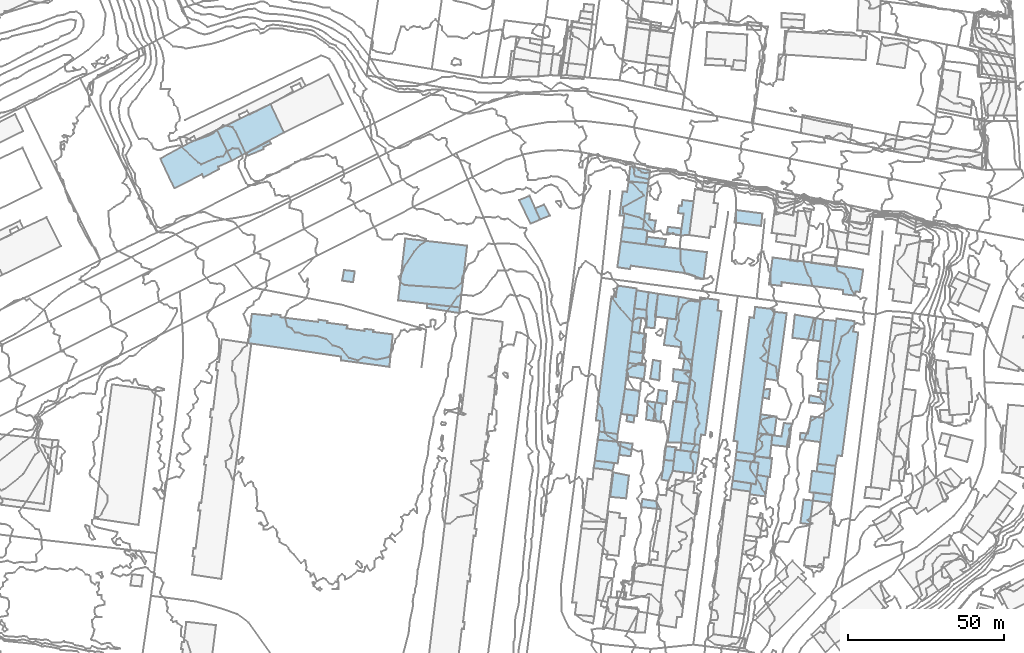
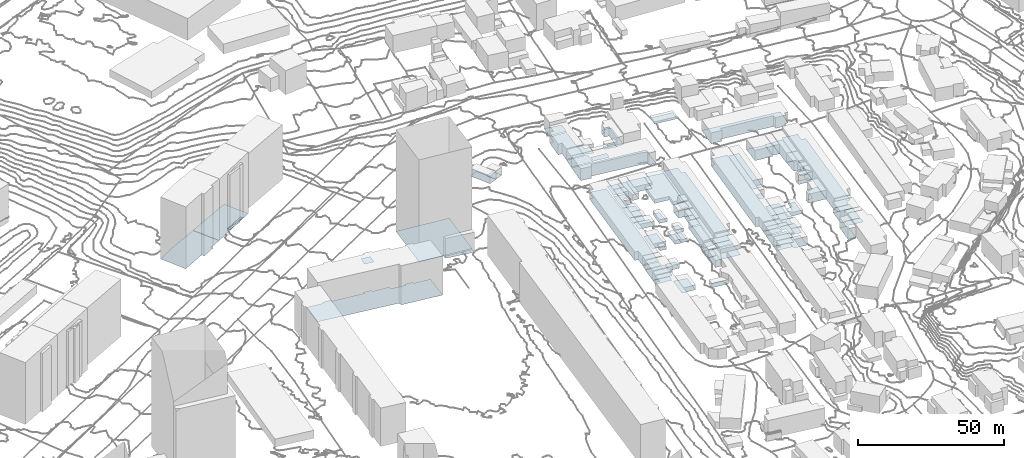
# Not in any storey, part 19 of 419: 73 footings.
"""IFC2X3 model written with IfcOpenShell, lengths in metres."""

from ifc_helpers import new_model, si_unit, frame, origin_with_axes, place, context, subcontext, project, faceted_brep, element, save


model = new_model("IFC2X3")

# Units and contexts
model_context = context("Model", 3, precision=1e-05, world=origin_with_axes())
body_context = subcontext(model_context, "Body", "Model", "MODEL_VIEW")
ifc_project = project(units=[si_unit("AREAUNIT", "SQUARE_METRE"), si_unit("LENGTHUNIT", "METRE")], contexts=[model_context])

# Footings
footing_1_placement = place(None, frame((536.0920204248, 752.4976909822, 39.0440010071), z_axis=(0.0, 0.0, 1.0), x_axis=(1.0, 0.0, 0.0)))
element("IfcFooting", 1, at=footing_1_placement, Name="Sol 0", PredefinedType="STRIP_FOOTING", context=body_context, shape_type="Brep", body=[
    faceted_brep([(5.0, -4.6999999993, 0.0), (4.4, -4.6999999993, 0.0), (0.9, -4.0999999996, 0.0), (0.2, 1.9000000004, 0.0), (5.7, 1.3000000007, 0.0), (1.4, -0.1999999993, 0.0), (0.0, 0.0, 0.0)], [[[0, 1, 2]], [[3, 4, 0]], [[5, 6, 3]], [[0, 2, 5]], [[5, 3, 0]]]),
])
footing_2_placement = place(None, frame((536.2920204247, 754.3976909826, 38.9300006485), z_axis=(0.0, 0.0, 1.0), x_axis=(1.0, 0.0, 0.0)))
element("IfcFooting", 2, at=footing_2_placement, Name="Sol 0", PredefinedType="STRIP_FOOTING", context=body_context, shape_type="Brep", body=[
    faceted_brep([(5.6000000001, 6.7000000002, 0.0), (4.8, -0.7000000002, 0.0), (0.0, 0.0, 0.0), (1.0, 7.2999999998, 0.0)], [[[0, 1, 2]], [[2, 3, 0]]]),
])
footing_3_placement = place(None, frame((537.2920204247, 761.6976909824, 38.8383990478), z_axis=(0.0, 0.0, 1.0), x_axis=(1.0, 0.0, 0.0)))
element("IfcFooting", 3, at=footing_3_placement, Name="Sol 0", PredefinedType="STRIP_FOOTING", context=body_context, shape_type="Brep", body=[
    faceted_brep([(5.2000000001, -0.5, 0.0), (0.0, 0.0, 0.0), (0.9, 6.1000000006, 0.0), (6.0, 5.4000000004, 0.0)], [[[0, 1, 2]], [[2, 3, 0]]]),
])
footing_4_placement = place(None, frame((500.4920204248, 826.9976909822, 37.8899995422), z_axis=(0.0, 0.0, 1.0), x_axis=(1.0, 0.0, 0.0)))
element("IfcFooting", 4, at=footing_4_placement, Name="Sol 0", PredefinedType="STRIP_FOOTING", context=body_context, shape_type="Brep", body=[
    faceted_brep([(3.5, -1.0, 0.0), (0.0, 0.0, 0.0), (0.6, 5.2000000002, 0.0), (2.0, 3.1000000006, 0.0), (4.1, 2.8000000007, 0.0), (2.2, 5.0, 0.0)], [[[0, 1, 2]], [[3, 4, 0]], [[2, 5, 3]], [[3, 0, 2]]]),
])
footing_5_placement = place(None, frame((496.0920204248, 787.9976909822, 36.4690006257), z_axis=(0.0, 0.0, 1.0), x_axis=(1.0, 0.0, 0.0)))
element("IfcFooting", 5, at=footing_5_placement, Name="Sol 0", PredefinedType="STRIP_FOOTING", context=body_context, shape_type="Brep", body=[
    faceted_brep([(0.0, 0.0, 0.0), (0.8, 6.3000000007, 0.0), (5.4, 5.5, 0.0), (4.8, -0.6999999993, 0.0)], [[[0, 1, 2]], [[2, 3, 0]]]),
])
footing_6_placement = place(None, frame((511.6920204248, 832.1976909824, 38.0406999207), z_axis=(0.0, 0.0, 1.0), x_axis=(1.0, 0.0, 0.0)))
element("IfcFooting", 6, at=footing_6_placement, Name="Sol 0", PredefinedType="STRIP_FOOTING", context=body_context, shape_type="Brep", body=[
    faceted_brep([(1.4, 4.2000000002, 0.0), (5.0, 3.7999999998, 0.0), (3.6, -7.0, 0.0), (0.0, 0.0, 0.0), (0.3, 2.5, 0.0), (1.2000000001, 2.2999999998, 0.0), (0.8, -7.0999999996, 0.0), (1.8, -0.0999999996, 0.0)], [[[0, 1, 2]], [[3, 4, 5]], [[2, 6, 7]], [[5, 0, 2]], [[7, 3, 5]], [[5, 2, 7]]]),
])
footing_7_placement = place(None, frame((492.9920204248, 831.4976909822, 37.6191995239), z_axis=(0.0, 0.0, 1.0), x_axis=(1.0, 0.0, 0.0)))
element("IfcFooting", 7, at=footing_7_placement, Name="Sol 0", PredefinedType="STRIP_FOOTING", context=body_context, shape_type="Brep", body=[
    faceted_brep([(9.2, 10.3000000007, 0.0), (7.5, -4.5, 0.0), (1.0, -3.7999999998, 0.0), (2.4, 7.5, 0.0), (2.9, 10.9000000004, 0.0), (0.0, 0.0, 0.0), (1.0, 7.7000000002, 0.0), (1.5, -0.0999999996, 0.0)], [[[0, 1, 2]], [[3, 4, 0]], [[5, 6, 3]], [[0, 2, 7]], [[5, 3, 0]], [[0, 7, 5]]]),
])
footing_8_placement = place(None, frame((534.6920204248, 742.1976909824, 38.0832015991), z_axis=(0.0, 0.0, 1.0), x_axis=(1.0, 0.0, 0.0)))
element("IfcFooting", 8, at=footing_8_placement, Name="Sol 0", PredefinedType="STRIP_FOOTING", context=body_context, shape_type="Brep", body=[
    faceted_brep([(0.0, 0.0, 0.0), (0.1, 0.9000000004, 0.0), (0.5, 3.5, 0.0), (5.8, 5.6000000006, 0.0), (5.0, -0.7000000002, 0.0), (1.9, 3.2000000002, 0.0), (2.3, 6.2000000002, 0.0)], [[[0, 1, 2]], [[3, 4, 0]], [[5, 6, 3]], [[0, 2, 5]], [[5, 3, 0]]]),
])
footing_9_placement = place(None, frame((553.7920204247, 742.8976909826, 41.4479988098), z_axis=(0.0, 0.0, 1.0), x_axis=(1.0, 0.0, 0.0)))
element("IfcFooting", 9, at=footing_9_placement, Name="Sol 0", PredefinedType="STRIP_FOOTING", context=body_context, shape_type="Brep", body=[
    faceted_brep([(0.8, 6.7999999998, 0.0), (8.1000000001, 5.7999999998, 0.0), (7.2000000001, -0.9000000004, 0.0), (0.0, 0.0, 0.0)], [[[0, 1, 2]], [[2, 3, 0]]]),
])
footing_10_placement = place(None, frame((373.5920204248, 851.4976909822, 36.4020008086), z_axis=(0.0, 0.0, 1.0), x_axis=(1.0, 0.0, 0.0)))
element("IfcFooting", 10, at=footing_10_placement, Name="Sol 0", PredefinedType="STRIP_FOOTING", context=body_context, shape_type="Brep", body=[
    faceted_brep([(0.0, 0.0, 0.0), (7.3, 3.9000000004, 0.0), (7.8, 3.0, 0.0), (5.5, 1.2000000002, 0.0), (0.4, -0.7999999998, 0.0), (5.4, 1.9000000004, 0.0)], [[[0, 1, 2]], [[3, 4, 0]], [[0, 2, 5]], [[5, 3, 0]]]),
])
footing_11_placement = place(None, frame((550.8920204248, 732.9976909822, 41.685300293), z_axis=(0.0, 0.0, 1.0), x_axis=(1.0, 0.0, 0.0)))
element("IfcFooting", 11, at=footing_11_placement, Name="Sol 0", PredefinedType="STRIP_FOOTING", context=body_context, shape_type="Brep", body=[
    faceted_brep([(1.0, 7.5, 0.0), (4.0, 7.2000000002, 0.0), (3.0, -0.3999999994, 0.0), (0.0, 0.0, 0.0)], [[[0, 1, 2]], [[2, 3, 0]]]),
])
footing_12_placement = place(None, frame((538.7920204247, 773.1976909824, 38.4532003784), z_axis=(0.0, 0.0, 1.0), x_axis=(1.0, 0.0, 0.0)))
element("IfcFooting", 12, at=footing_12_placement, Name="Sol 0", PredefinedType="STRIP_FOOTING", context=body_context, shape_type="Brep", body=[
    faceted_brep([(0.0, 0.0, 0.0), (0.4, 2.6000000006, 0.0), (2.4, 2.7000000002, 0.0), (2.0, -0.5, 0.0)], [[[0, 1, 2]], [[2, 3, 0]]]),
])
footing_13_placement = place(None, frame((556.0920204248, 749.4976909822, 41.3992001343), z_axis=(0.0, 0.0, 1.0), x_axis=(1.0, 0.0, 0.0)))
element("IfcFooting", 13, at=footing_13_placement, Name="Sol 0", PredefinedType="STRIP_FOOTING", context=body_context, shape_type="Brep", body=[
    faceted_brep([(0.3, 2.5, 0.0), (6.0, 1.8000000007, 0.0), (5.8, -0.7999999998, 0.0), (0.0, 0.0, 0.0)], [[[0, 1, 2]], [[2, 3, 0]]]),
])
footing_14_placement = place(None, frame((502.7920204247, 779.1976909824, 37.2367999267), z_axis=(0.0, 0.0, 1.0), x_axis=(1.0, 0.0, 0.0)))
element("IfcFooting", 14, at=footing_14_placement, Name="Sol 0", PredefinedType="STRIP_FOOTING", context=body_context, shape_type="Brep", body=[
    faceted_brep([(0.0, 0.0, 0.0), (0.9, 6.0, 0.0), (3.3, 5.6000000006, 0.0), (2.9, -0.5, 0.0)], [[[0, 1, 2]], [[2, 3, 0]]]),
])
footing_15_placement = place(None, frame((503.7920204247, 765.6976909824, 36.9349994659), z_axis=(0.0, 0.0, 1.0), x_axis=(1.0, 0.0, 0.0)))
element("IfcFooting", 15, at=footing_15_placement, Name="Sol 0", PredefinedType="STRIP_FOOTING", context=body_context, shape_type="Brep", body=[
    faceted_brep([(0.0, 0.0, 0.0), (0.7000000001, 5.9000000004, 0.0), (3.0, 5.5, 0.0), (2.3, -0.2999999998, 0.0)], [[[0, 1, 2]], [[2, 3, 0]]]),
])
footing_16_placement = place(None, frame((508.3920204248, 758.7976909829, 37.1160003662), z_axis=(0.0, 0.0, 1.0), x_axis=(1.0, 0.0, 0.0)))
element("IfcFooting", 16, at=footing_16_placement, Name="Sol 0", PredefinedType="STRIP_FOOTING", context=body_context, shape_type="Brep", body=[
    faceted_brep([(6.2, 12.6999999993, 0.0), (4.2999999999, 0.0, 0.0), (0.0, 0.0, 0.0), (1.7999999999, 13.2999999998, 0.0)], [[[0, 1, 2]], [[2, 3, 0]]]),
])
footing_17_placement = place(None, frame((512.4920204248, 756.2976909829, 37.5744013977), z_axis=(0.0, 0.0, 1.0), x_axis=(1.0, 0.0, 0.0)))
element("IfcFooting", 17, at=footing_17_placement, Name="Sol 0", PredefinedType="STRIP_FOOTING", context=body_context, shape_type="Brep", body=[
    faceted_brep([(0.0, 0.0, 0.0), (0.2, 2.5, 0.0), (6.1, 1.6999999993, 0.0), (5.9, -0.8000000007, 0.0)], [[[0, 1, 2]], [[2, 3, 0]]]),
])
footing_18_placement = place(None, frame((495.6920204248, 784.2976909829, 36.4690006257), z_axis=(0.0, 0.0, 1.0), x_axis=(1.0, 0.0, 0.0)))
element("IfcFooting", 18, at=footing_18_placement, Name="Sol 0", PredefinedType="STRIP_FOOTING", context=body_context, shape_type="Brep", body=[
    faceted_brep([(0.0, 0.0, 0.0), (0.4, 3.6999999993, 0.0), (4.8, 3.0, 0.0), (4.4, -0.7000000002, 0.0)], [[[0, 1, 2]], [[2, 3, 0]]]),
])
footing_19_placement = place(None, frame((507.2920204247, 753.1976909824, 37.0859994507), z_axis=(0.0, 0.0, 1.0), x_axis=(1.0, 0.0, 0.0)))
element("IfcFooting", 19, at=footing_19_placement, Name="Sol 0", PredefinedType="STRIP_FOOTING", context=body_context, shape_type="Brep", body=[
    faceted_brep([(0.6000000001, 4.4000000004, 0.0), (4.0, 4.0, 0.0), (3.5, 3.2999999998, 0.0), (3.1000000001, -0.2999999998, 0.0), (0.0, 0.0, 0.0)], [[[0, 1, 2]], [[3, 4, 0]], [[0, 2, 3]]]),
])
footing_20_placement = place(None, frame((492.8920204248, 754.7976909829, 35.7219993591), z_axis=(0.0, 0.0, 1.0), x_axis=(1.0, 0.0, 0.0)))
element("IfcFooting", 20, at=footing_20_placement, Name="Sol 0", PredefinedType="STRIP_FOOTING", context=body_context, shape_type="Brep", body=[
    faceted_brep([(3.6, -0.4000000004, 0.0), (0.0, 0.0, 0.0), (0.5, 4.0999999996, 0.0), (4.2999999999, 3.5999999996, 0.0)], [[[0, 1, 2]], [[2, 3, 0]]]),
])
footing_21_placement = place(None, frame((507.1920204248, 789.9976909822, 37.4983999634), z_axis=(0.0, 0.0, 1.0), x_axis=(1.0, 0.0, 0.0)))
element("IfcFooting", 21, at=footing_21_placement, Name="Sol 0", PredefinedType="STRIP_FOOTING", context=body_context, shape_type="Brep", body=[
    faceted_brep([(3.8, 8.2000000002, 0.0), (4.8, 15.4000000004, 0.0), (11.7000000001, 14.2000000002, 0.0), (0.0, 0.0, 0.0), (1.2000000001, 8.5, 0.0), (9.1, -4.6999999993, 0.0), (4.9, -4.1999999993, 0.0), (5.4, -0.6999999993, 0.0)], [[[0, 1, 2]], [[3, 4, 0]], [[5, 6, 7]], [[0, 2, 5]], [[7, 3, 0]], [[0, 5, 7]]]),
])
footing_22_placement = place(None, frame((513.0920204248, 781.8976909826, 37.9384004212), z_axis=(0.0, 0.0, 1.0), x_axis=(1.0, 0.0, 0.0)))
element("IfcFooting", 22, at=footing_22_placement, Name="Sol 0", PredefinedType="STRIP_FOOTING", context=body_context, shape_type="Brep", body=[
    faceted_brep([(0.0, 0.0, 0.0), (0.7, 3.7000000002, 0.0), (3.2, 3.4000000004, 0.0), (2.9, -0.2000000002, 0.0)], [[[0, 1, 2]], [[2, 3, 0]]]),
])
footing_23_placement = place(None, frame((495.1920204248, 779.9976909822, 36.8950008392), z_axis=(0.0, 0.0, 1.0), x_axis=(1.0, 0.0, 0.0)))
element("IfcFooting", 23, at=footing_23_placement, Name="Sol 0", PredefinedType="STRIP_FOOTING", context=body_context, shape_type="Brep", body=[
    faceted_brep([(0.0, 0.0, 0.0), (0.5, 4.3000000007, 0.0), (6.1, 3.4000000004, 0.0), (5.6, -0.8999999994, 0.0)], [[[0, 1, 2]], [[2, 3, 0]]]),
])
footing_24_placement = place(None, frame((495.1920204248, 765.5976909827, 36.6363998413), z_axis=(0.0, 0.0, 1.0), x_axis=(1.0, 0.0, 0.0)))
element("IfcFooting", 24, at=footing_24_placement, Name="Sol 0", PredefinedType="STRIP_FOOTING", context=body_context, shape_type="Brep", body=[
    faceted_brep([(0.0, 0.0, 0.0), (0.3, 2.0999999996, 0.0), (2.6, 1.7999999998, 0.0), (2.3, -0.4000000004, 0.0)], [[[0, 1, 2]], [[2, 3, 0]]]),
])
footing_25_placement = place(None, frame((556.4920204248, 775.2976909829, 40.5619991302), z_axis=(0.0, 0.0, 1.0), x_axis=(1.0, 0.0, 0.0)))
element("IfcFooting", 25, at=footing_25_placement, Name="Sol 0", PredefinedType="STRIP_FOOTING", context=body_context, shape_type="Brep", body=[
    faceted_brep([(0.2999999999, 2.5999999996, 0.0), (3.1, 2.1999999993, 0.0), (2.9, -0.3000000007, 0.0), (0.0, 0.0, 0.0)], [[[0, 1, 2]], [[2, 3, 0]]]),
])
footing_26_placement = place(None, frame((485.9920204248, 759.6976909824, 35.5533998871), z_axis=(0.0, 0.0, 1.0), x_axis=(1.0, 0.0, 0.0)))
element("IfcFooting", 26, at=footing_26_placement, Name="Sol 0", PredefinedType="STRIP_FOOTING", context=body_context, shape_type="Brep", body=[
    faceted_brep([(6.2, -0.7000000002, 0.0), (0.0, 0.0, 0.0), (0.4, 2.6000000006, 0.0), (6.4, 1.7999999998, 0.0)], [[[0, 1, 2]], [[2, 3, 0]]]),
])
footing_27_placement = place(None, frame((556.4920204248, 784.9976909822, 40.2458000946), z_axis=(0.0, 0.0, 1.0), x_axis=(1.0, 0.0, 0.0)))
element("IfcFooting", 27, at=footing_27_placement, Name="Sol 0", PredefinedType="STRIP_FOOTING", context=body_context, shape_type="Brep", body=[
    faceted_brep([(0.0, 0.0, 0.0), (1.7, 13.1000000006, 0.0), (5.7999999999, 12.7000000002, 0.0), (4.1, -0.5, 0.0)], [[[0, 1, 2]], [[2, 3, 0]]]),
])
footing_28_placement = place(None, frame((556.0920204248, 779.1976909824, 40.3780010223), z_axis=(0.0, 0.0, 1.0), x_axis=(1.0, 0.0, 0.0)))
element("IfcFooting", 28, at=footing_28_placement, Name="Sol 0", PredefinedType="STRIP_FOOTING", context=body_context, shape_type="Brep", body=[
    faceted_brep([(0.0, 0.0, 0.0), (0.4, 5.7999999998, 0.0), (4.5, 5.2999999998, 0.0), (3.8, -0.3999999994, 0.0)], [[[0, 1, 2]], [[2, 3, 0]]]),
])
footing_29_placement = place(None, frame((495.8920204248, 842.3976909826, 37.9790008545), z_axis=(0.0, 0.0, 1.0), x_axis=(1.0, 0.0, 0.0)))
element("IfcFooting", 29, at=footing_29_placement, Name="Sol 0", PredefinedType="STRIP_FOOTING", context=body_context, shape_type="Brep", body=[
    faceted_brep([(0.0, 0.0, 0.0), (0.5, 4.7999999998, 0.0), (6.8999999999, 3.5, 0.0), (6.2999999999, -0.5999999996, 0.0)], [[[0, 1, 2]], [[2, 3, 0]]]),
])
footing_30_placement = place(None, frame((404.1920204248, 810.5976909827, 35.6151997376), z_axis=(0.0, 0.0, 1.0), x_axis=(1.0, 0.0, 0.0)))
element("IfcFooting", 30, at=footing_30_placement, Name="Sol 0", PredefinedType="STRIP_FOOTING", context=body_context, shape_type="Brep", body=[
    faceted_brep([(3.5, -0.5, 0.0), (0.0, 0.0, 0.0), (0.6, 3.3999999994, 0.0), (4.0, 3.0, 0.0)], [[[0, 1, 2]], [[2, 3, 0]]]),
])
footing_31_placement = place(None, frame((496.8920204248, 794.2976909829, 36.5808003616), z_axis=(0.0, 0.0, 1.0), x_axis=(1.0, 0.0, 0.0)))
element("IfcFooting", 31, at=footing_31_placement, Name="Sol 0", PredefinedType="STRIP_FOOTING", context=body_context, shape_type="Brep", body=[
    faceted_brep([(0.0, 0.0, 0.0), (0.7999999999, 7.3999999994, 0.0), (4.7, 6.8999999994, 0.0), (3.1, 4.3999999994, 0.0), (2.3999999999, -0.6000000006, 0.0), (4.8999999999, 4.0999999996, 0.0)], [[[0, 1, 2]], [[3, 4, 0]], [[2, 5, 3]], [[3, 0, 2]]]),
])
footing_32_placement = place(None, frame((497.6920204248, 801.6976909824, 37.1106988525), z_axis=(0.0, 0.0, 1.0), x_axis=(1.0, 0.0, 0.0)))
element("IfcFooting", 32, at=footing_32_placement, Name="Sol 0", PredefinedType="STRIP_FOOTING", context=body_context, shape_type="Brep", body=[
    faceted_brep([(0.0, 0.0, 0.0), (0.7000000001, 5.7999999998, 0.0), (4.6, 5.2000000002, 0.0), (3.9, -0.5, 0.0)], [[[0, 1, 2]], [[2, 3, 0]]]),
])
footing_33_placement = place(None, frame((501.3920204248, 822.1976909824, 37.6935987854), z_axis=(0.0, 0.0, 1.0), x_axis=(1.0, 0.0, 0.0)))
element("IfcFooting", 33, at=footing_33_placement, Name="Sol 0", PredefinedType="STRIP_FOOTING", context=body_context, shape_type="Brep", body=[
    faceted_brep([(5.8999999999, -0.8999999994, 0.0), (0.0, 0.0, 0.0), (0.5, 2.4000000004, 0.0), (6.5, 1.7000000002, 0.0)], [[[0, 1, 2]], [[2, 3, 0]]]),
])
footing_34_placement = place(None, frame((501.5920204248, 801.1976909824, 37.1959991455), z_axis=(0.0, 0.0, 1.0), x_axis=(1.0, 0.0, 0.0)))
element("IfcFooting", 34, at=footing_34_placement, Name="Sol 0", PredefinedType="STRIP_FOOTING", context=body_context, shape_type="Brep", body=[
    faceted_brep([(0.0, 0.0, 0.0), (0.7, 5.7000000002, 0.0), (3.7, 5.2000000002, 0.0), (2.6, -5.7999999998, 0.0), (0.1, -5.5999999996, 0.0)], [[[0, 1, 2]], [[3, 4, 0]], [[0, 2, 3]]]),
])
footing_35_placement = place(None, frame((539.5920204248, 779.1976909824, 38.5800003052), z_axis=(0.0, 0.0, 1.0), x_axis=(1.0, 0.0, 0.0)))
element("IfcFooting", 35, at=footing_35_placement, Name="Sol 0", PredefinedType="STRIP_FOOTING", context=body_context, shape_type="Brep", body=[
    faceted_brep([(0.0, 0.0, 0.0), (2.9, 21.4000000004, 0.0), (6.9, 21.0, 0.0), (4.0, -0.5999999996, 0.0)], [[[0, 1, 2]], [[2, 3, 0]]]),
])
footing_36_placement = place(None, frame((554.8920204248, 740.1976909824, 41.7104003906), z_axis=(0.0, 0.0, 1.0), x_axis=(1.0, 0.0, 0.0)))
element("IfcFooting", 36, at=footing_36_placement, Name="Sol 0", PredefinedType="STRIP_FOOTING", context=body_context, shape_type="Brep", body=[
    faceted_brep([(0.2999999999, 2.6000000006, 0.0), (6.1, 1.7999999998, 0.0), (5.7999999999, -0.7999999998, 0.0), (0.0, 0.0, 0.0)], [[[0, 1, 2]], [[2, 3, 0]]]),
])
footing_37_placement = place(None, frame((512.6920204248, 758.7976909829, 37.5744013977), z_axis=(0.0, 0.0, 1.0), x_axis=(1.0, 0.0, 0.0)))
element("IfcFooting", 37, at=footing_37_placement, Name="Sol 0", PredefinedType="STRIP_FOOTING", context=body_context, shape_type="Brep", body=[
    faceted_brep([(0.0, 0.0, 0.0), (3.6, 26.5, 0.0), (6.2000000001, 45.3999999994, 0.0), (6.4, 2.5, 0.0), (5.9, -0.8000000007, 0.0), (12.9, 42.0, 0.0), (7.7000000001, 2.3999999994, 0.0), (6.0, 46.3999999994, 0.0), (12.0, 45.5999999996, 0.0), (11.7000000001, 42.2999999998, 0.0)], [[[0, 1, 2]], [[3, 4, 0]], [[5, 6, 3]], [[7, 8, 9]], [[3, 0, 2]], [[9, 5, 3]], [[2, 7, 9]], [[9, 3, 2]]]),
])
footing_38_placement = place(None, frame((499.8920204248, 738.0976909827, 36.1509001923), z_axis=(0.0, 0.0, 1.0), x_axis=(1.0, 0.0, 0.0)))
element("IfcFooting", 38, at=footing_38_placement, Name="Sol 0", PredefinedType="STRIP_FOOTING", context=body_context, shape_type="Brep", body=[
    faceted_brep([(0.3999999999, 2.5999999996, 0.0), (4.8999999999, 1.8999999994, 0.0), (6.2999999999, -0.7000000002, 0.0), (0.0, 0.0, 0.0)], [[[0, 1, 2]], [[2, 3, 0]]]),
])
footing_39_placement = place(None, frame((530.0920204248, 753.1976909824, 38.3579986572), z_axis=(0.0, 0.0, 1.0), x_axis=(1.0, 0.0, 0.0)))
element("IfcFooting", 39, at=footing_39_placement, Name="Sol 0", PredefinedType="STRIP_FOOTING", context=body_context, shape_type="Brep", body=[
    faceted_brep([(6.0, -0.7000000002, 0.0), (0.0, 0.0, 0.0), (0.3, 2.6000000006, 0.0), (6.3, 1.7999999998, 0.0)], [[[0, 1, 2]], [[2, 3, 0]]]),
])
footing_40_placement = place(None, frame((431.2920204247, 801.8976909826, 33.842800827), z_axis=(0.0, 0.0, 1.0), x_axis=(1.0, 0.0, 0.0)))
element("IfcFooting", 40, at=footing_40_placement, Name="Sol 0", PredefinedType="STRIP_FOOTING", context=body_context, shape_type="Brep", body=[
    faceted_brep([(0.0, 1.2999999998, 0.0), (10.6000000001, 0.0999999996, 0.0), (10.4, -1.7000000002, 0.0), (0.0, 0.0, 0.0)], [[[0, 1, 2]], [[2, 3, 0]]]),
])
footing_41_placement = place(None, frame((529.1920204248, 746.5976909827, 38.0880004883), z_axis=(0.0, 0.0, 1.0), x_axis=(1.0, 0.0, 0.0)))
element("IfcFooting", 41, at=footing_41_placement, Name="Sol 0", PredefinedType="STRIP_FOOTING", context=body_context, shape_type="Brep", body=[
    faceted_brep([(7.4, -1.2000000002, 0.0), (0.0, 0.0, 0.0), (0.9, 6.5999999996, 0.0), (8.3, 5.7000000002, 0.0)], [[[0, 1, 2]], [[2, 3, 0]]]),
])
footing_42_placement = place(None, frame((493.5920204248, 767.8976909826, 36.6200008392), z_axis=(0.0, 0.0, 1.0), x_axis=(1.0, 0.0, 0.0)))
element("IfcFooting", 42, at=footing_42_placement, Name="Sol 0", PredefinedType="STRIP_FOOTING", context=body_context, shape_type="Brep", body=[
    faceted_brep([(5.0, -0.5999999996, 0.0), (0.0, 0.0, 0.0), (1.1, 8.0, 0.0), (5.9, 7.4000000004, 0.0)], [[[0, 1, 2]], [[2, 3, 0]]]),
])
footing_43_placement = place(None, frame((557.1920204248, 773.1976909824, 40.6828004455), z_axis=(0.0, 0.0, 1.0), x_axis=(1.0, 0.0, 0.0)))
element("IfcFooting", 43, at=footing_43_placement, Name="Sol 0", PredefinedType="STRIP_FOOTING", context=body_context, shape_type="Brep", body=[
    faceted_brep([(2.2000000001, 1.7999999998, 0.0), (1.6, -2.0999999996, 0.0), (0.0, 0.0, 0.0), (0.4, 2.0, 0.0)], [[[0, 1, 2]], [[2, 3, 0]]]),
])
footing_44_placement = place(None, frame((501.4920204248, 766.0976909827, 36.8341002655), z_axis=(0.0, 0.0, 1.0), x_axis=(1.0, 0.0, 0.0)))
element("IfcFooting", 44, at=footing_44_placement, Name="Sol 0", PredefinedType="STRIP_FOOTING", context=body_context, shape_type="Brep", body=[
    faceted_brep([(0.5, 5.8999999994, 0.0), (3.0, 5.5, 0.0), (2.2999999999, -0.4000000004, 0.0), (0.0, 0.0, 0.0)], [[[0, 1, 2]], [[2, 3, 0]]]),
])
footing_45_placement = place(None, frame((504.8920204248, 771.5976909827, 37.0406004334), z_axis=(0.0, 0.0, 1.0), x_axis=(1.0, 0.0, 0.0)))
element("IfcFooting", 45, at=footing_45_placement, Name="Sol 0", PredefinedType="STRIP_FOOTING", context=body_context, shape_type="Brep", body=[
    faceted_brep([(3.0, -0.5, 0.0), (0.0, 0.0, 0.0), (0.6, 4.0, 0.0), (3.2999999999, 3.5999999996, 0.0)], [[[0, 1, 2]], [[2, 3, 0]]]),
])
footing_46_placement = place(None, frame((506.3920204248, 746.8976909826, 37.0859994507), z_axis=(0.0, 0.0, 1.0), x_axis=(1.0, 0.0, 0.0)))
element("IfcFooting", 46, at=footing_46_placement, Name="Sol 0", PredefinedType="STRIP_FOOTING", context=body_context, shape_type="Brep", body=[
    faceted_brep([(4.0, 6.0, 0.0), (3.6, 2.7999999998, 0.0), (2.2, -0.4000000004, 0.0), (0.0, 0.0, 0.0), (0.8999999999, 6.2999999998, 0.0)], [[[0, 1, 2]], [[3, 4, 0]], [[0, 2, 3]]]),
])
footing_47_placement = place(None, frame((489.9920204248, 741.3976909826, 35.3760009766), z_axis=(0.0, 0.0, 1.0), x_axis=(1.0, 0.0, 0.0)))
element("IfcFooting", 47, at=footing_47_placement, Name="Sol 0", PredefinedType="STRIP_FOOTING", context=body_context, shape_type="Brep", body=[
    faceted_brep([(0.0, 0.0, 0.0), (1.0, 7.7999999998, 0.0), (6.0, 6.7999999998, 0.0), (5.1, -0.5, 0.0)], [[[0, 1, 2]], [[2, 3, 0]]]),
])
footing_48_placement = place(None, frame((510.9920204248, 771.7976909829, 37.4740007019), z_axis=(0.0, 0.0, 1.0), x_axis=(1.0, 0.0, 0.0)))
element("IfcFooting", 48, at=footing_48_placement, Name="Sol 0", PredefinedType="STRIP_FOOTING", context=body_context, shape_type="Brep", body=[
    faceted_brep([(4.5, 5.6999999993, 0.0), (3.6, -0.3000000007, 0.0), (0.0, 0.0, 0.0), (1.0, 6.0999999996, 0.0)], [[[0, 1, 2]], [[2, 3, 0]]]),
])
footing_49_placement = place(None, frame((553.5920204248, 771.5976909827, 40.2979999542), z_axis=(0.0, 0.0, 1.0), x_axis=(1.0, 0.0, 0.0)))
element("IfcFooting", 49, at=footing_49_placement, Name="Sol 0", PredefinedType="STRIP_FOOTING", context=body_context, shape_type="Brep", body=[
    faceted_brep([(3.6, 1.5999999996, 0.0), (5.2, -0.5, 0.0), (0.0, 0.0, 0.0), (0.2, 2.2999999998, 0.0)], [[[0, 1, 2]], [[2, 3, 0]]]),
])
footing_50_placement = place(None, frame((484.6920204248, 750.5976909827, 35.4380004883), z_axis=(0.0, 0.0, 1.0), x_axis=(1.0, 0.0, 0.0)))
element("IfcFooting", 50, at=footing_50_placement, Name="Sol 0", PredefinedType="STRIP_FOOTING", context=body_context, shape_type="Brep", body=[
    faceted_brep([(6.1, -0.7999999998, 0.0), (0.0, 0.0, 0.0), (0.4, 2.3999999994, 0.0), (6.6, 1.5999999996, 0.0)], [[[0, 1, 2]], [[2, 3, 0]]]),
])
footing_51_placement = place(None, frame((508.1920204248, 825.8976909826, 37.9969993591), z_axis=(0.0, 0.0, 1.0), x_axis=(1.0, 0.0, 0.0)))
element("IfcFooting", 51, at=footing_51_placement, Name="Sol 0", PredefinedType="STRIP_FOOTING", context=body_context, shape_type="Brep", body=[
    faceted_brep([(4.6, 1.4000000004, 0.0), (4.3, -0.7999999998, 0.0), (0.0, 0.0, 0.0), (0.3, 1.9000000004, 0.0)], [[[0, 1, 2]], [[2, 3, 0]]]),
])
footing_52_placement = place(None, frame((364.0920204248, 858.8976909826, 34.5357012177), z_axis=(0.0, 0.0, 1.0), x_axis=(1.0, 0.0, 0.0)))
element("IfcFooting", 52, at=footing_52_placement, Name="Sol 0", PredefinedType="STRIP_FOOTING", context=body_context, shape_type="Brep", body=[
    faceted_brep([(17.2, 8.2999999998, 0.0), (21.5, -0.7999999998, 0.0), (4.8, -9.7999999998, 0.0), (0.0, 0.0, 0.0)], [[[0, 1, 2]], [[2, 3, 0]]]),
])
footing_53_placement = place(None, frame((509.9920204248, 778.3976909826, 37.4320007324), z_axis=(0.0, 0.0, 1.0), x_axis=(1.0, 0.0, 0.0)))
element("IfcFooting", 53, at=footing_53_placement, Name="Sol 0", PredefinedType="STRIP_FOOTING", context=body_context, shape_type="Brep", body=[
    faceted_brep([(0.0, 0.0, 0.0), (0.2999999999, 3.9000000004, 0.0), (3.1, 3.5, 0.0), (6.0, 3.2999999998, 0.0), (5.5, -0.9000000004, 0.0)], [[[0, 1, 2]], [[3, 4, 0]], [[0, 2, 3]]]),
])
footing_54_placement = place(None, frame((374.0920204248, 790.5976909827, 34.1350006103), z_axis=(0.0, 0.0, 1.0), x_axis=(1.0, 0.0, 0.0)))
element("IfcFooting", 54, at=footing_54_placement, Name="Sol 0", PredefinedType="STRIP_FOOTING", context=body_context, shape_type="Brep", body=[
    faceted_brep([(29.8, -4.2999999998, 0.0), (0.0, 0.0, 0.0), (1.2, 9.3999999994, 0.0), (45.2, -7.6000000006, 0.0), (29.8, -5.5, 0.0), (40.0, 3.5999999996, 0.0), (46.3, 2.7999999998, 0.0), (37.2, 4.5999999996, 0.0), (40.1, 4.2000000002, 0.0), (25.3, 6.5, 0.0), (31.8, 5.7000000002, 0.0), (31.5, 4.7000000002, 0.0), (22.5, 7.5, 0.0), (25.4, 7.0999999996, 0.0), (7.5, 9.2999999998, 0.0), (10.4, 9.0, 0.0), (10.3, 8.2999999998, 0.0), (7.4, 8.7000000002, 0.0), (37.2, 3.8999999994, 0.0), (22.4, 6.7999999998, 0.0)], [[[0, 1, 2]], [[3, 4, 0]], [[5, 6, 3]], [[7, 8, 5]], [[9, 10, 11]], [[12, 13, 9]], [[14, 15, 16]], [[0, 2, 17]], [[5, 3, 0]], [[18, 7, 5]], [[19, 12, 9]], [[17, 14, 16]], [[18, 5, 0]], [[19, 9, 11]], [[0, 17, 16]], [[11, 18, 0]], [[16, 19, 11]], [[11, 0, 16]]]),
])
footing_55_placement = place(None, frame((422.0920204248, 804.2976909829, 34.1403998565), z_axis=(0.0, 0.0, 1.0), x_axis=(1.0, 0.0, 0.0)))
element("IfcFooting", 55, at=footing_55_placement, Name="Sol 0", PredefinedType="STRIP_FOOTING", context=body_context, shape_type="Brep", body=[
    faceted_brep([(22.1, 17.5, 0.0), (19.8, -2.3000000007, 0.0), (0.0, 0.0, 0.0), (2.3, 19.7999999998, 0.0)], [[[0, 1, 2]], [[2, 3, 0]]]),
])
footing_56_placement = place(None, frame((529.7920204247, 829.1976909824, 39.0116003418), z_axis=(0.0, 0.0, 1.0), x_axis=(1.0, 0.0, 0.0)))
element("IfcFooting", 56, at=footing_56_placement, Name="Sol 0", PredefinedType="STRIP_FOOTING", context=body_context, shape_type="Brep", body=[
    faceted_brep([(0.5, 4.0, 0.0), (8.9, 2.9000000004, 0.0), (8.5, -1.0999999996, 0.0), (0.0, 0.0, 0.0)], [[[0, 1, 2]], [[2, 3, 0]]]),
])
footing_57_placement = place(None, frame((509.9920204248, 749.6976909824, 37.4170002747), z_axis=(0.0, 0.0, 1.0), x_axis=(1.0, 0.0, 0.0)))
element("IfcFooting", 57, at=footing_57_placement, Name="Sol 0", PredefinedType="STRIP_FOOTING", context=body_context, shape_type="Brep", body=[
    faceted_brep([(7.4, -0.8999999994, 0.0), (0.0, 0.0, 0.0), (0.4, 3.2000000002, 0.0), (0.7999999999, 6.7999999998, 0.0), (8.4, 5.7999999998, 0.0)], [[[0, 1, 2]], [[3, 4, 0]], [[0, 2, 3]]]),
])
footing_58_placement = place(None, frame((554.8920204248, 791.4976909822, 40.0251986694), z_axis=(0.0, 0.0, 1.0), x_axis=(1.0, 0.0, 0.0)))
element("IfcFooting", 58, at=footing_58_placement, Name="Sol 0", PredefinedType="STRIP_FOOTING", context=body_context, shape_type="Brep", body=[
    faceted_brep([(0.0, 0.0, 0.0), (0.8999999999, 7.1000000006, 0.0), (3.2999999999, 6.6000000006, 0.0), (2.3999999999, -0.2999999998, 0.0)], [[[0, 1, 2]], [[2, 3, 0]]]),
])
footing_59_placement = place(None, frame((493.3920204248, 823.1976909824, 37.3968002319), z_axis=(0.0, 0.0, 1.0), x_axis=(1.0, 0.0, 0.0)))
element("IfcFooting", 59, at=footing_59_placement, Name="Sol 0", PredefinedType="STRIP_FOOTING", context=body_context, shape_type="Brep", body=[
    faceted_brep([(8.0, -1.0, 0.0), (0.0, 0.0, 0.0), (0.6, 4.5, 0.0), (7.1, 3.7999999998, 0.0), (8.5, 3.1000000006, 0.0)], [[[0, 1, 2]], [[3, 4, 0]], [[0, 2, 3]]]),
])
footing_60_placement = place(None, frame((345.9920204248, 849.6976909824, 34.4988005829), z_axis=(0.0, 0.0, 1.0), x_axis=(1.0, 0.0, 0.0)))
element("IfcFooting", 60, at=footing_60_placement, Name="Sol 0", PredefinedType="STRIP_FOOTING", context=body_context, shape_type="Brep", body=[
    faceted_brep([(18.1, 9.2000000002, 0.0), (22.9, -0.5999999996, 0.0), (18.5, -2.5999999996, 0.0), (0.0, 0.0, 0.0), (7.2, 4.0, 0.0), (13.4, -5.0, 0.0), (4.5, -9.5, 0.0), (18.7999999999, -3.3999999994, 0.0), (13.7999999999, -6.0, 0.0)], [[[0, 1, 2]], [[3, 4, 0]], [[5, 6, 3]], [[7, 8, 5]], [[3, 0, 2]], [[7, 5, 3]], [[3, 2, 7]]]),
])
footing_61_placement = place(None, frame((529.4920204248, 759.2976909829, 38.4549007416), z_axis=(0.0, 0.0, 1.0), x_axis=(1.0, 0.0, 0.0)))
element("IfcFooting", 61, at=footing_61_placement, Name="Sol 0", PredefinedType="STRIP_FOOTING", context=body_context, shape_type="Brep", body=[
    faceted_brep([(6.9, -4.3000000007, 0.0), (0.9, -3.5, 0.0), (1.2999999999, -0.2000000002, 0.0), (6.9, 42.8999999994, 0.0), (13.1, 42.0999999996, 0.0), (0.0, 0.0, 0.0), (5.1, 39.5999999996, 0.0), (6.5, 39.3999999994, 0.0)], [[[0, 1, 2]], [[3, 4, 0]], [[5, 6, 7]], [[7, 3, 0]], [[2, 5, 7]], [[7, 0, 2]]]),
])
footing_62_placement = place(None, frame((556.3920204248, 751.9976909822, 40.5050003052), z_axis=(0.0, 0.0, 1.0), x_axis=(1.0, 0.0, 0.0)))
element("IfcFooting", 62, at=footing_62_placement, Name="Sol 0", PredefinedType="STRIP_FOOTING", context=body_context, shape_type="Brep", body=[
    faceted_brep([(0.0, 0.0, 0.0), (5.8999999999, 45.7000000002, 0.0), (6.1, 46.5, 0.0), (6.3999999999, 2.6000000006, 0.0), (5.7, -0.6999999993, 0.0), (13.0, 42.0, 0.0), (7.7999999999, 2.5, 0.0), (11.8999999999, 45.6000000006, 0.0), (11.3999999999, 42.3000000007, 0.0)], [[[0, 1, 2]], [[3, 4, 0]], [[5, 6, 3]], [[2, 7, 8]], [[3, 0, 2]], [[8, 5, 3]], [[3, 2, 8]]]),
])
footing_63_placement = place(None, frame((504.2920204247, 799.0976909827, 37.4920009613), z_axis=(0.0, 0.0, 1.0), x_axis=(1.0, 0.0, 0.0)))
element("IfcFooting", 63, at=footing_63_placement, Name="Sol 0", PredefinedType="STRIP_FOOTING", context=body_context, shape_type="Brep", body=[
    faceted_brep([(0.0, 0.0, 0.0), (1.0, 7.2999999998, 0.0), (7.7000000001, 6.2999999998, 0.0), (6.7000000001, -0.9000000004, 0.0)], [[[0, 1, 2]], [[2, 3, 0]]]),
])
footing_64_placement = place(None, frame((492.2920204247, 814.8976909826, 37.1345001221), z_axis=(0.0, 0.0, 1.0), x_axis=(1.0, 0.0, 0.0)))
element("IfcFooting", 64, at=footing_64_placement, Name="Sol 0", PredefinedType="STRIP_FOOTING", context=body_context, shape_type="Brep", body=[
    faceted_brep([(27.6000000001, -3.7999999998, 0.0), (25.0, -3.5999999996, 0.0), (24.9, -2.7999999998, 0.0), (1.1000000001, 8.2999999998, 0.0), (28.7000000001, 4.7999999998, 0.0), (4.0, -0.5999999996, 0.0), (0.0, 0.0, 0.0), (4.3, 0.5, 0.0), (22.4, -2.0, 0.0)], [[[0, 1, 2]], [[3, 4, 0]], [[5, 6, 3]], [[3, 0, 2]], [[7, 5, 3]], [[3, 2, 8]], [[8, 7, 3]]]),
])
footing_65_placement = place(None, frame((460.8920204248, 836.3976909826, 37.0680015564), z_axis=(0.0, 0.0, 1.0), x_axis=(1.0, 0.0, 0.0)))
element("IfcFooting", 65, at=footing_65_placement, Name="Sol 0", PredefinedType="STRIP_FOOTING", context=body_context, shape_type="Brep", body=[
    faceted_brep([(3.2999999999, 1.4000000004, 0.0), (6.7, -6.2000000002, 0.0), (3.6, -7.5, 0.0), (0.0, 0.0, 0.0)], [[[0, 1, 2]], [[2, 3, 0]]]),
])
footing_66_placement = place(None, frame((540.7920204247, 809.3976909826, 38.9419998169), z_axis=(0.0, 0.0, 1.0), x_axis=(1.0, 0.0, 0.0)))
element("IfcFooting", 66, at=footing_66_placement, Name="Sol 0", PredefinedType="STRIP_FOOTING", context=body_context, shape_type="Brep", body=[
    faceted_brep([(1.2000000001, 8.5999999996, 0.0), (27.5, 5.2000000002, 0.0), (30.2000000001, 4.7000000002, 0.0), (4.0, -0.5, 0.0), (0.0, 0.0, 0.0), (27.6000000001, -3.5999999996, 0.0), (23.7000000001, -3.0999999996, 0.0), (23.7000000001, -1.7999999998, 0.0), (29.1000000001, -2.4000000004, 0.0), (27.7000000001, -2.2999999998, 0.0), (4.1000000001, 0.7000000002, 0.0), (22.5, -1.5999999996, 0.0)], [[[0, 1, 2]], [[3, 4, 0]], [[5, 6, 7]], [[2, 8, 9]], [[10, 3, 0]], [[9, 5, 7]], [[0, 2, 9]], [[11, 10, 0]], [[9, 7, 11]], [[11, 0, 9]]]),
])
footing_67_placement = place(None, frame((541.5920204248, 757.9976909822, 39.1079994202), z_axis=(0.0, 0.0, 1.0), x_axis=(1.0, 0.0, 0.0)))
element("IfcFooting", 67, at=footing_67_placement, Name="Sol 0", PredefinedType="STRIP_FOOTING", context=body_context, shape_type="Brep", body=[
    faceted_brep([(0.0, 0.0, 0.0), (0.3, 3.1000000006, 0.0), (3.2, 2.7000000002, 0.0), (4.0, 7.0, 0.0), (6.5, 6.8000000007, 0.0), (5.6, -0.5999999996, 0.0)], [[[0, 1, 2]], [[3, 4, 5]], [[5, 0, 2]], [[2, 3, 5]]]),
])
footing_68_placement = place(None, frame((528.7920204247, 743.8976909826, 38.0880004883), z_axis=(0.0, 0.0, 1.0), x_axis=(1.0, 0.0, 0.0)))
element("IfcFooting", 68, at=footing_68_placement, Name="Sol 0", PredefinedType="STRIP_FOOTING", context=body_context, shape_type="Brep", body=[
    faceted_brep([(6.0, -0.7999999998, 0.0), (0.0, 0.0, 0.0), (0.4, 2.7000000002, 0.0), (6.4, 1.7999999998, 0.0)], [[[0, 1, 2]], [[2, 3, 0]]]),
])
footing_69_placement = place(None, frame((550.6920204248, 759.7976909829, 40.672599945), z_axis=(0.0, 0.0, 1.0), x_axis=(1.0, 0.0, 0.0)))
element("IfcFooting", 69, at=footing_69_placement, Name="Sol 0", PredefinedType="STRIP_FOOTING", context=body_context, shape_type="Brep", body=[
    faceted_brep([(3.6, 7.2999999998, 0.0), (7.6, 6.8999999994, 0.0), (6.6, -0.9000000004, 0.0), (0.0, 0.0, 0.0), (0.2000000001, 2.0, 0.0), (2.6, 1.8999999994, 0.0)], [[[0, 1, 2]], [[3, 4, 5]], [[5, 0, 2]], [[2, 3, 5]]]),
])
footing_70_placement = place(None, frame((485.3920204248, 765.8976909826, 35.8050014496), z_axis=(0.0, 0.0, 1.0), x_axis=(1.0, 0.0, 0.0)))
element("IfcFooting", 70, at=footing_70_placement, Name="Sol 0", PredefinedType="STRIP_FOOTING", context=body_context, shape_type="Brep", body=[
    faceted_brep([(7.0, -4.4000000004, 0.0), (1.0, -3.5999999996, 0.0), (1.2999999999, -0.2000000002, 0.0), (13.1, 42.2000000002, 0.0), (9.2999999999, 10.0, 0.0), (6.3999999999, 39.5, 0.0), (6.8999999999, 43.0999999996, 0.0), (0.0, 0.0, 0.0), (5.0, 39.7000000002, 0.0)], [[[0, 1, 2]], [[3, 4, 0]], [[5, 6, 3]], [[7, 8, 5]], [[3, 0, 2]], [[7, 5, 3]], [[3, 2, 7]]]),
])
footing_71_placement = place(None, frame((548.2920204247, 792.2976909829, 39.6029994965), z_axis=(0.0, 0.0, 1.0), x_axis=(1.0, 0.0, 0.0)))
element("IfcFooting", 71, at=footing_71_placement, Name="Sol 0", PredefinedType="STRIP_FOOTING", context=body_context, shape_type="Brep", body=[
    faceted_brep([(0.8, 7.3999999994, 0.0), (7.5, 6.2999999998, 0.0), (6.6000000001, -0.8000000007, 0.0), (0.0, 0.0, 0.0)], [[[0, 1, 2]], [[2, 3, 0]]]),
])
footing_72_placement = place(None, frame((465.8920204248, 833.7976909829, 37.0680015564), z_axis=(0.0, 0.0, 1.0), x_axis=(1.0, 0.0, 0.0)))
element("IfcFooting", 72, at=footing_72_placement, Name="Sol 0", PredefinedType="STRIP_FOOTING", context=body_context, shape_type="Brep", body=[
    faceted_brep([(4.7999999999, -2.3000000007, 0.0), (1.7, -3.6000000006, 0.0), (0.0, 0.0, 0.0), (3.0, 1.1999999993, 0.0)], [[[0, 1, 2]], [[2, 3, 0]]]),
])
footing_73_placement = place(None, frame((485.0920204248, 752.9976909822, 35.4380004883), z_axis=(0.0, 0.0, 1.0), x_axis=(1.0, 0.0, 0.0)))
element("IfcFooting", 73, at=footing_73_placement, Name="Sol 0", PredefinedType="STRIP_FOOTING", context=body_context, shape_type="Brep", body=[
    faceted_brep([(7.3, -0.8999999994, 0.0), (0.0, 0.0, 0.0), (0.9, 6.7000000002, 0.0), (8.3, 5.9000000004, 0.0)], [[[0, 1, 2]], [[2, 3, 0]]]),
])

save(model, "model.ifc")
